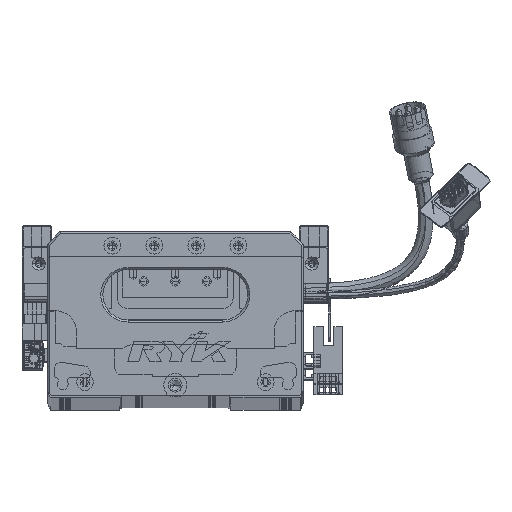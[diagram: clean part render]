
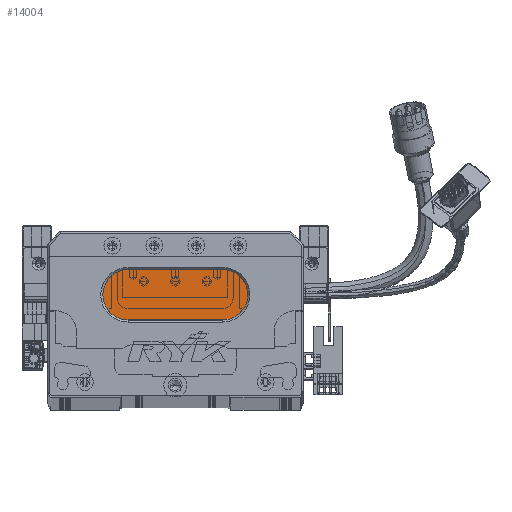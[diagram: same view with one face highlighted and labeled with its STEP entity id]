
A CAD part, top view. The second image highlights one B-rep face of the part: STEP entity #14004.
In plain terms, the highlighted planar face has unit normal (0, 0, 1) as drawn and (0, 0, -1) by its records, which use the part's own axes.
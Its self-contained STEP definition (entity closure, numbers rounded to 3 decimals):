
#4446 = AXIS2_PLACEMENT_3D ( 'NONE', #12356, #99573, #34328 ) ;
#10145 = VERTEX_POINT ( 'NONE', #70858 ) ;
#11180 = DIRECTION ( 'NONE',  ( -1., 0., 0. ) ) ;
#12356 = CARTESIAN_POINT ( 'NONE',  ( 38.5, 48., 13. ) ) ;
#14004 = ADVANCED_FACE ( 'NONE', ( #129420 ), #61846, .T. ) ;
#15095 = LINE ( 'NONE', #119225, #125999 ) ;
#15830 = AXIS2_PLACEMENT_3D ( 'NONE', #41788, #50878, #85180 ) ;
#17441 = CARTESIAN_POINT ( 'NONE',  ( 83.5, 60., 13. ) ) ;
#27564 = ORIENTED_EDGE ( 'NONE', *, *, #107199, .T. ) ;
#27710 = EDGE_CURVE ( 'NONE', #87776, #108295, #37995, .T. ) ;
#34328 = DIRECTION ( 'NONE',  ( -1., 0., 0. ) ) ;
#34578 = ORIENTED_EDGE ( 'NONE', *, *, #78817, .T. ) ;
#36097 = EDGE_LOOP ( 'NONE', ( #34578, #103553, #27564, #139285, #137950 ) ) ;
#37995 = CIRCLE ( 'NONE', #4446, 12. ) ;
#39245 = AXIS2_PLACEMENT_3D ( 'NONE', #140873, #65122, #11180 ) ;
#41788 = CARTESIAN_POINT ( 'NONE',  ( 83.5, 48., 13. ) ) ;
#50073 = CARTESIAN_POINT ( 'NONE',  ( 26.5, 48., 13. ) ) ;
#50878 = DIRECTION ( 'NONE',  ( 0., 0., -1. ) ) ;
#53156 = VERTEX_POINT ( 'NONE', #123571 ) ;
#61846 = PLANE ( 'NONE',  #15830 ) ;
#64046 = AXIS2_PLACEMENT_3D ( 'NONE', #93546, #94933, #73065 ) ;
#64815 = LINE ( 'NONE', #17441, #85194 ) ;
#65122 = DIRECTION ( 'NONE',  ( 0., 0., -1. ) ) ;
#66411 = DIRECTION ( 'NONE',  ( -1., 0., 0. ) ) ;
#69219 = CARTESIAN_POINT ( 'NONE',  ( 83.5, 60., 13. ) ) ;
#70858 = CARTESIAN_POINT ( 'NONE',  ( 38.5, 36., 13. ) ) ;
#72223 = CIRCLE ( 'NONE', #39245, 12. ) ;
#73065 = DIRECTION ( 'NONE',  ( -1., 0., 0. ) ) ;
#78817 = EDGE_CURVE ( 'NONE', #128565, #53156, #78942, .T. ) ;
#78942 = CIRCLE ( 'NONE', #64046, 12. ) ;
#81867 = DIRECTION ( 'NONE',  ( 1., 0., 0. ) ) ;
#85180 = DIRECTION ( 'NONE',  ( -1., 0., 0. ) ) ;
#85194 = VECTOR ( 'NONE', #81867, 1000. ) ;
#87776 = VERTEX_POINT ( 'NONE', #50073 ) ;
#93546 = CARTESIAN_POINT ( 'NONE',  ( 83.5, 48., 13. ) ) ;
#94933 = DIRECTION ( 'NONE',  ( 0., 0., -1. ) ) ;
#99573 = DIRECTION ( 'NONE',  ( 0., 0., -1. ) ) ;
#103064 = CARTESIAN_POINT ( 'NONE',  ( 38.5, 60., 13. ) ) ;
#103553 = ORIENTED_EDGE ( 'NONE', *, *, #136402, .T. ) ;
#107199 = EDGE_CURVE ( 'NONE', #10145, #87776, #72223, .T. ) ;
#108295 = VERTEX_POINT ( 'NONE', #103064 ) ;
#119225 = CARTESIAN_POINT ( 'NONE',  ( 83.5, 36., 13. ) ) ;
#123571 = CARTESIAN_POINT ( 'NONE',  ( 83.5, 36., 13. ) ) ;
#125695 = EDGE_CURVE ( 'NONE', #108295, #128565, #64815, .T. ) ;
#125999 = VECTOR ( 'NONE', #66411, 1000. ) ;
#128565 = VERTEX_POINT ( 'NONE', #69219 ) ;
#129420 = FACE_OUTER_BOUND ( 'NONE', #36097, .T. ) ;
#136402 = EDGE_CURVE ( 'NONE', #53156, #10145, #15095, .T. ) ;
#137950 = ORIENTED_EDGE ( 'NONE', *, *, #125695, .T. ) ;
#139285 = ORIENTED_EDGE ( 'NONE', *, *, #27710, .T. ) ;
#140873 = CARTESIAN_POINT ( 'NONE',  ( 38.5, 48., 13. ) ) ;
